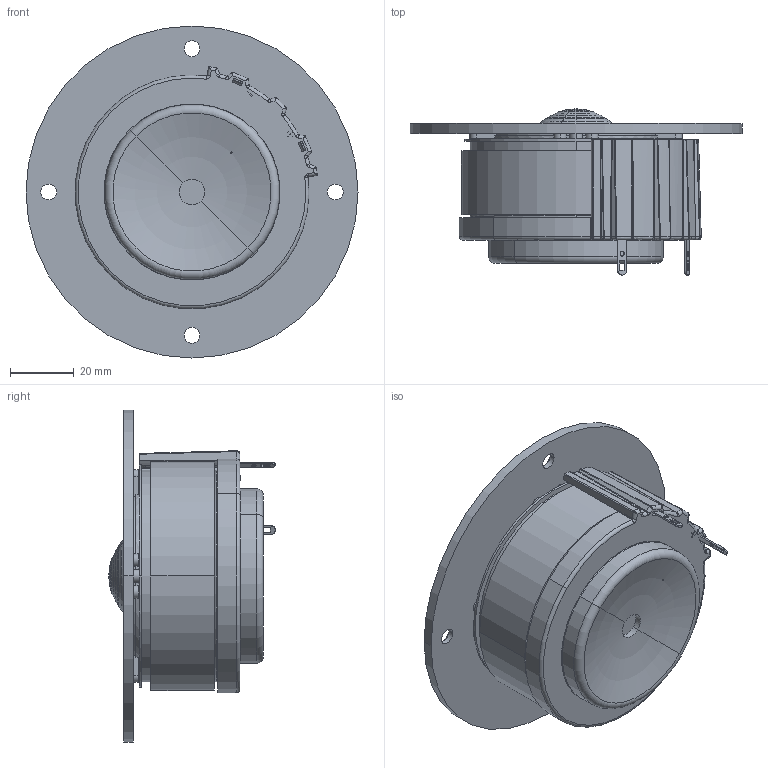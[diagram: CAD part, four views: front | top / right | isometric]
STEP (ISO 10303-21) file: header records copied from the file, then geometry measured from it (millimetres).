
FILE_DESCRIPTION (( 'STEP AP214' ), '1' );
FILE_NAME ('D2904-950000.STEP', '2020-10-20T07:38:09', ( '' ), ( '' ), 'SwSTEP 2.0', 'SolidWorks 2019', '' );
FILE_SCHEMA (( 'AUTOMOTIVE_DESIGN' ));
Length unit declared in the file: millimetre
Products named in the file (1): D2904-950000
Bounding box: 104.3 x 52.27 x 104.3 mm (x, y, z)
Volume: 172301.9 mm3; surface area: 42542 mm2
Topology: 3 solids, 20 shells, 487 faces, 1214 edges, 762 vertices
Faces by surface type: plane 167, cylinder 159, bspline 68, torus 50, cone 43
Entity records: 20716 total; most frequent: CARTESIAN_POINT 4210, DIRECTION 2431, ORIENTED_EDGE 2392, EDGE_CURVE 1196, AXIS2_PLACEMENT_3D 964, VERTEX_POINT 762, EDGE_LOOP 556, CIRCLE 544
